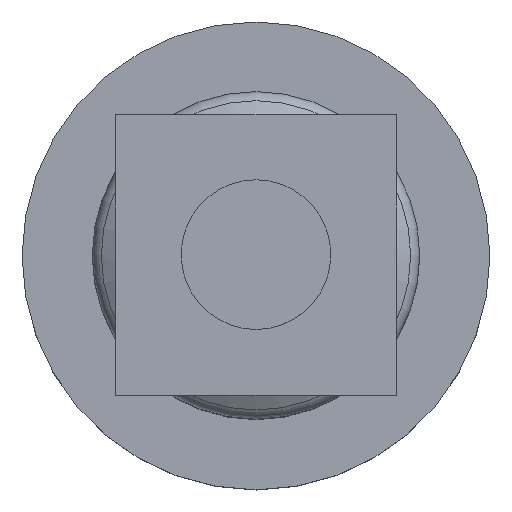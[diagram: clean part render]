
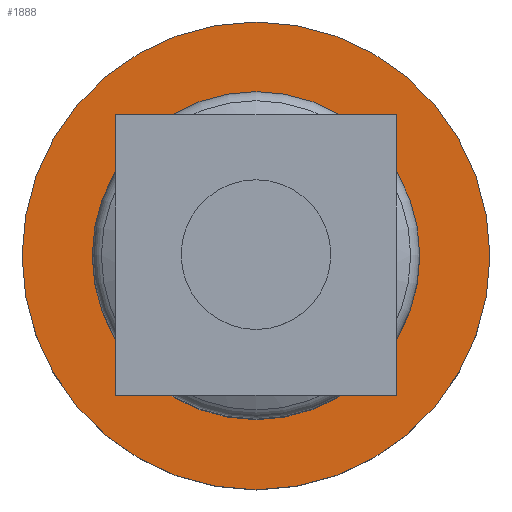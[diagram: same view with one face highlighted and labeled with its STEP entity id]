
A CAD part, top view. The second image highlights one B-rep face of the part: STEP entity #1888.
In plain terms, the highlighted planar face has unit normal (0, 0, 1).
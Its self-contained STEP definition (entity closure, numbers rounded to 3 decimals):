
#275 = EDGE_CURVE ( 'NONE', #1785, #1785, #2153, .T. ) ;
#780 = DIRECTION ( 'NONE',  ( 0., 0., -1. ) ) ;
#918 = VERTEX_POINT ( 'NONE', #1186 ) ;
#1052 = AXIS2_PLACEMENT_3D ( 'NONE', #1891, #5100, #4635 ) ;
#1139 = EDGE_CURVE ( 'NONE', #918, #918, #3602, .T. ) ;
#1151 = DIRECTION ( 'NONE',  ( 0., 0., -1. ) ) ;
#1186 = CARTESIAN_POINT ( 'NONE',  ( -25., 0., 27. ) ) ;
#1263 = DIRECTION ( 'NONE',  ( -1., 0., 0. ) ) ;
#1554 = AXIS2_PLACEMENT_3D ( 'NONE', #4014, #780, #1263 ) ;
#1785 = VERTEX_POINT ( 'NONE', #3032 ) ;
#1888 = ADVANCED_FACE ( 'NONE', ( #2565, #4868 ), #2639, .F. ) ;
#1891 = CARTESIAN_POINT ( 'NONE',  ( 0., 0., 27. ) ) ;
#2153 = CIRCLE ( 'NONE', #3796, 17.5 ) ;
#2565 = FACE_BOUND ( 'NONE', #4728, .T. ) ;
#2639 = PLANE ( 'NONE',  #1554 ) ;
#2694 = EDGE_LOOP ( 'NONE', ( #5015 ) ) ;
#3032 = CARTESIAN_POINT ( 'NONE',  ( -17.5, 0., 27. ) ) ;
#3342 = ORIENTED_EDGE ( 'NONE', *, *, #275, .T. ) ;
#3602 = CIRCLE ( 'NONE', #1052, 25. ) ;
#3796 = AXIS2_PLACEMENT_3D ( 'NONE', #5827, #1151, #4887 ) ;
#4014 = CARTESIAN_POINT ( 'NONE',  ( 0., 0., 27. ) ) ;
#4635 = DIRECTION ( 'NONE',  ( -1., 0., 0. ) ) ;
#4728 = EDGE_LOOP ( 'NONE', ( #3342 ) ) ;
#4868 = FACE_OUTER_BOUND ( 'NONE', #2694, .T. ) ;
#4887 = DIRECTION ( 'NONE',  ( -1., 0., 0. ) ) ;
#5015 = ORIENTED_EDGE ( 'NONE', *, *, #1139, .F. ) ;
#5100 = DIRECTION ( 'NONE',  ( 0., 0., -1. ) ) ;
#5827 = CARTESIAN_POINT ( 'NONE',  ( 0., 0., 27. ) ) ;
